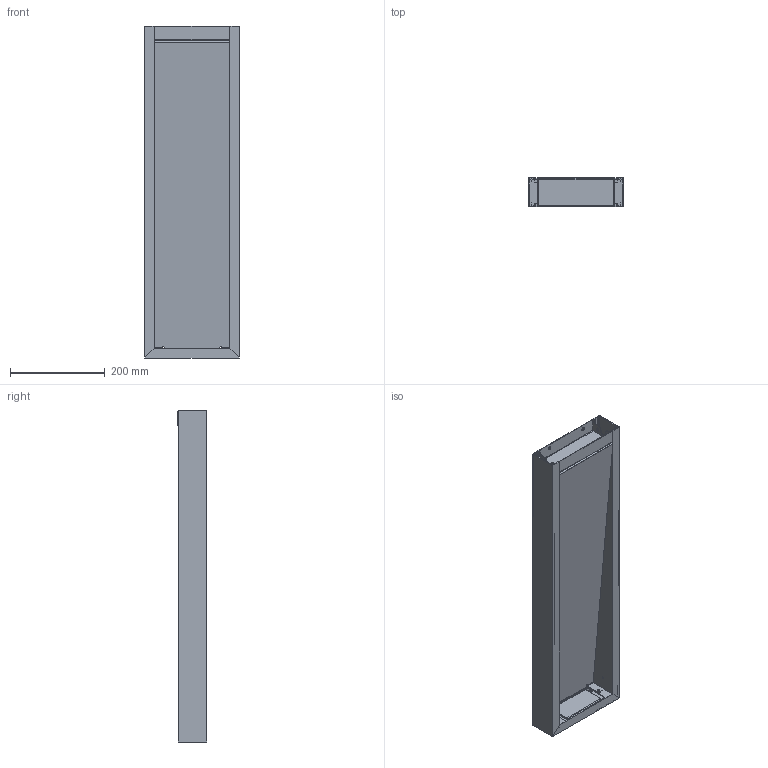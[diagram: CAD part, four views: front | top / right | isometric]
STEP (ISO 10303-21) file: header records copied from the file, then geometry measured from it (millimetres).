
FILE_DESCRIPTION((''),'2;1');
FILE_NAME('ARKE700_SW0001','2025-05-23T14:28:17',('elena.baldelli'),(''),'CREO PARAMETRIC BY PTC INC, 2020354','CREO PARAMETRIC BY PTC INC, 2020354','');
FILE_SCHEMA(('CONFIG_CONTROL_DESIGN'));
Length unit declared in the file: millimetre
Products named in the file (1): ARKE700_SW0001
Bounding box: 200 x 62.21 x 700 mm (x, y, z)
Surface area: 729810.8 mm2 (no closed solid volume)
Topology: 0 solids, 14 shells, 97 faces, 505 edges, 402 vertices
Faces by surface type: plane 69, cylinder 17, cone 7, bspline 4
Entity records: 6251 total; most frequent: CARTESIAN_POINT 2339, DIRECTION 784, ORIENTED_EDGE 656, EDGE_CURVE 505, VERTEX_POINT 402, VECTOR 338, LINE 338, AXIS2_PLACEMENT_3D 223
